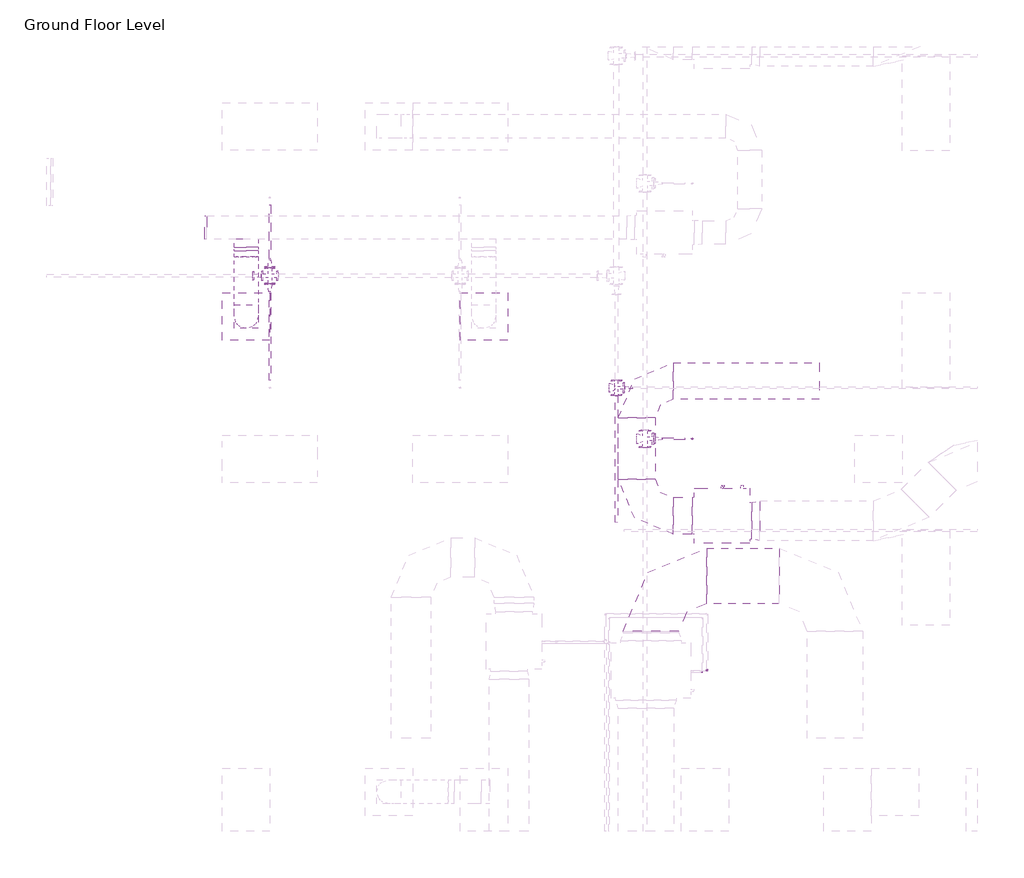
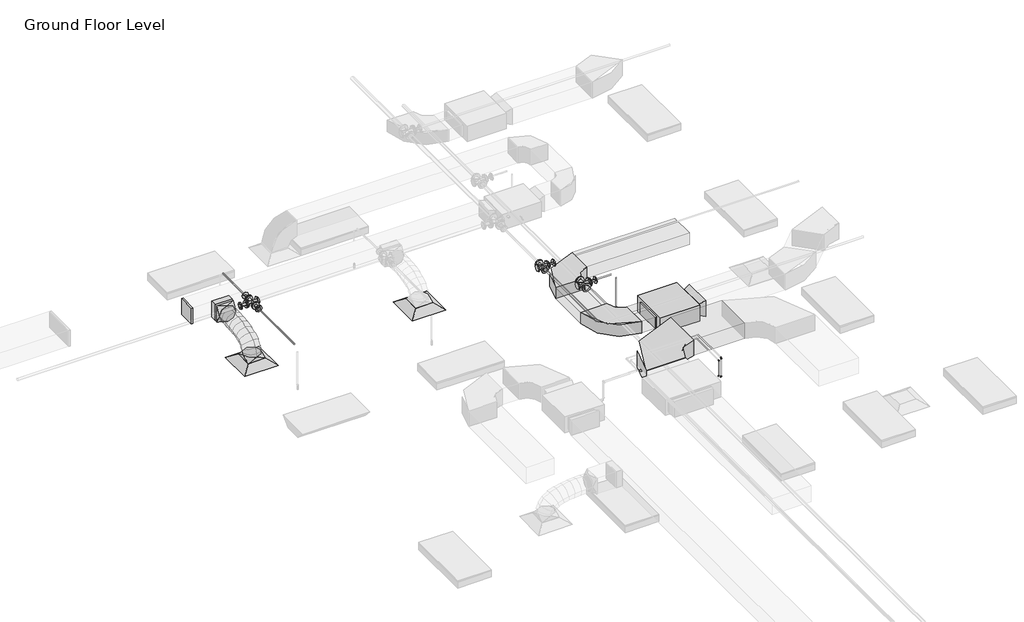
# One storey, part 34 of 68: 12 pipe fittings, 8 duct fittings, 7 pipe segments, 6 duct segments, 2 air terminals, 1 fire suppression terminal, 1 proxy.
"""IFC4 building model written with IfcOpenShell, lengths in millimetres."""

from ifc_helpers import new_model, si_unit, point, frame, frame_2d, origin, place, context, project, spatial, polyline, circle_curve, ellipse_curve, trimmed, segment, composite_curve, outline, extrude, transform, mapped, element, save
from ifc_brep_helpers import plane_surface, cylinder_surface, advanced_brep
from components import m_return_diffuser_600_x_600_face_300_x_300_connection_ff221211, fcu_daikin_iu_bad131e0, m_rectangular_elbow_radius_1_w_54c96895, m_rectangular_elbow_radius_1_w_8a62b27e, m_rectangular_endcap_standard_c319d4e7, m_rectangular_takeoff_standard_cb0ccb98, m_rectangular_transition_angle_45_degree_2b595dfe, m_rectangular_to_round_transition_angle_45_degree_641efff0, m_sprinkler_pendent_15_mm_pendent_06fcbd8e, m_cross_flanged_cs_class_150_standard_fc817054, m_elbow_generic_standard_a088f956, m_elbow_generic_standard_2a704253, m_reducer_flanged_cs_class_150_standard_ccf252ad, m_reducer_flanged_cs_class_150_standard_83138b42, m_reducer_flanged_cs_class_150_standard_564df86d, m_reducer_flanged_cs_class_150_standard_dc68ad9d, m_tee_round_base_flanged_cs_class_150_standard_7e5987a1, m_tee_round_base_flanged_cs_class_150_standard_ab36f383

model = new_model("IFC4")

# Units and contexts
model_context = context("Model", 3, world=origin())
ifc_project = project(units=[si_unit("LENGTHUNIT", "METRE", prefix="MILLI")], contexts=[model_context])

# Site, building, storey
site = spatial("IfcSite", under=ifc_project)
building = spatial("IfcBuilding", under=site)
storey = spatial("IfcBuildingStorey", under=building, Name="Ground Floor Level", Elevation=900.0)

# Air terminals
placement = place(None, origin())
m_return_diffuser_600_x_600_face_300_x_300_connection_shape = m_return_diffuser_600_x_600_face_300_x_300_connection_ff221211(model_context)
element("IfcAirTerminal", 1, ObjectType="M_Supply Diffuser : 600 x 600 Face 300 x 300 Connection", at=placement, inside=storey, context=model_context, shape_type="MappedRepresentation", body=[
    mapped(m_return_diffuser_600_x_600_face_300_x_300_connection_shape, transform((962.7672395, -3464.7846466, 3650.0), x_axis=(1.0, 0.0, 0.0), y_axis=(0.0, 1.0, 0.0), z_axis=(0.0, 0.0, 1.0))),
])
element("IfcAirTerminal", 2, ObjectType="M_Supply Diffuser : 600 x 600 Face 300 x 300 Connection", at=placement, inside=storey, context=model_context, shape_type="MappedRepresentation", body=[
    mapped(m_return_diffuser_600_x_600_face_300_x_300_connection_shape, transform((3962.7672395, -3464.7846466, 3650.0), x_axis=(1.0, 0.0, 0.0), y_axis=(0.0, 1.0, 0.0), z_axis=(0.0, 0.0, 1.0))),
])

# Proxy
fcu_daikin_iu_shape = fcu_daikin_iu_bad131e0(model_context)
element("IfcBuildingElementProxy", 3, Name="FCU-DAIKIN IU : 4.5kW, 230V/50Hz/1Ph", ObjectType="FCU-DAIKIN IU : 4.5kW, 230V/50Hz/1Ph", at=placement, inside=storey, context=model_context, shape_type="MappedRepresentation", body=[
    mapped(fcu_daikin_iu_shape, transform((6968.8139492, -5980.3220473, 3934.0932729), x_axis=(0.0, 1.0, 0.0), y_axis=(-1.0, 0.0, 0.0), z_axis=(0.0, 0.0, 1.0))),
])

# Duct fittings
m_rectangular_elbow_radius_1_w_shape = m_rectangular_elbow_radius_1_w_54c96895(model_context)
element("IfcDuctFitting", 4, ObjectType="M_Rectangular Elbow - Radius : 1 W", at=placement, inside=storey, context=model_context, shape_type="MappedRepresentation", body=[
    mapped(m_rectangular_elbow_radius_1_w_shape, transform((5893.4139492, -5980.3220473, 4075.2932729), x_axis=(0.0, -1.0, 0.0), y_axis=(1.0, 0.0, 0.0), z_axis=(0.0, 0.0, 1.0))),
])
element("IfcDuctFitting", 5, ObjectType="M_Rectangular Elbow - Radius : 1 W", at=placement, inside=storey, context=model_context, shape_type="MappedRepresentation", body=[
    mapped(m_rectangular_elbow_radius_1_w_shape, transform((5893.4139492, -4280.3216051, 4075.2932729), x_axis=(-1.0, 0.0, 0.0), y_axis=(0.0, -1.0, 0.0), z_axis=(0.0, 0.0, 1.0))),
])
m_rectangular_elbow_radius_1_w_2_shape = m_rectangular_elbow_radius_1_w_8a62b27e(model_context)
element("IfcDuctFitting", 6, ObjectType="M_Rectangular Elbow - Radius : 1 W", at=placement, inside=storey, context=model_context, shape_type="MappedRepresentation", body=[
    mapped(m_rectangular_elbow_radius_1_w_2_shape, transform((6073.4139492, -6738.5358641, 4075.2875), x_axis=(-1.0, 0.0, 0.0), y_axis=(0.0, -1.0, 0.0), z_axis=(0.0, 0.0, 1.0))),
])
m_rectangular_endcap_standard_shape = m_rectangular_endcap_standard_c319d4e7(model_context)
element("IfcDuctFitting", 7, ObjectType="M_Rectangular Endcap : Standard", at=placement, inside=storey, context=model_context, shape_type="MappedRepresentation", body=[
    mapped(m_rectangular_endcap_standard_shape, transform((468.0139492, -2341.7438478, 4099.9874667), x_axis=(-0.9999999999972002, 0.0, -2.3663212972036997e-06), y_axis=(0.0, -1.0, 0.0), z_axis=(-2.3663212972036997e-06, 0.0, 0.9999999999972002))),
])
m_rectangular_takeoff_standard_shape = m_rectangular_takeoff_standard_cb0ccb98(model_context)
element("IfcDuctFitting", 8, ObjectType="M_Rectangular Takeoff : Standard", at=placement, inside=storey, context=model_context, shape_type="MappedRepresentation", body=[
    mapped(m_rectangular_takeoff_standard_shape, transform((962.7672395, -2491.7438478, 4099.9886375), x_axis=(0.0, -1.0, 0.0), y_axis=(-1.0, 0.0, 0.0), z_axis=(0.0, 0.0, -1.0))),
])
m_rectangular_transition_angle_45_degree_shape = m_rectangular_transition_angle_45_degree_2b595dfe(model_context)
element("IfcDuctFitting", 9, ObjectType="M_Rectangular Transition - Angle : 45 Degree", at=placement, inside=storey, context=model_context, shape_type="MappedRepresentation", body=[
    mapped(m_rectangular_transition_angle_45_degree_shape, transform((7344.2139492, -6043.8220473, 4100.0057729), x_axis=(1.0, 0.0, 0.0), y_axis=(0.0, 1.0, 0.0), z_axis=(0.0, 0.0, 1.0))),
])
m_rectangular_to_round_transition_angle_45_degree_shape = m_rectangular_to_round_transition_angle_45_degree_641efff0(model_context)
element("IfcDuctFitting", 10, ObjectType="M_Rectangular to Round Transition - Angle : 45 Degree", at=placement, inside=storey, context=model_context, shape_type="MappedRepresentation", body=[
    mapped(m_rectangular_to_round_transition_angle_45_degree_shape, transform((962.7672395, -3464.7846466, 3751.6), x_axis=(0.0, 0.0, 1.0), y_axis=(-1.0, 0.0, 0.0), z_axis=(0.0, -1.0, 0.0))),
])
element("IfcDuctFitting", 11, ObjectType="M_Rectangular to Round Transition - Angle : 45 Degree", at=placement, inside=storey, context=model_context, shape_type="MappedRepresentation", body=[
    mapped(m_rectangular_to_round_transition_angle_45_degree_shape, transform((962.7672395, -2637.4373528, 4099.9886375), x_axis=(0.0, -1.0, 0.0), y_axis=(1.0, 0.0, 0.0), z_axis=(0.0, 0.0, 1.0))),
])

# Duct segments
element("IfcDuctSegment", 12, ObjectType="Flex - Round", at=placement, inside=storey, context=model_context, shape_type="AdvancedBrep", body=[
    advanced_brep(
    [(1112.7672395, -3464.7846466, 3826.6), (962.7672395, -3614.7846466, 3826.6), (812.7672395, -3464.7846466, 3826.6), (962.7672395, -3314.7846466, 3826.6), (1112.7672395, -3464.7846466, 3857.9381884), (962.7672395, -3614.7846466, 3883.5819935), (812.7672395, -3464.7846466, 3857.9381884), (962.7672395, -3314.7846466, 3832.2943832), (1112.7672395, -3447.768399, 3906.25078), (962.7672395, -3581.5056623, 3978.0678058), (812.7672395, -3447.768399, 3906.25078), (962.7672395, -3314.0311357, 3834.4337542), (1112.7672395, -3400.5836609, 3968.7107931), (962.7672395, -3504.7876153, 4079.6220458), (812.7672395, -3400.5836609, 3968.7107931), (962.7672395, -3296.3797065, 3857.7995403), (1112.7672395, -3329.0264393, 4016.0681252), (962.7672395, -3397.9574302, 4150.3234013), (812.7672395, -3329.0264393, 4016.0681252), (962.7672395, -3260.0954484, 3881.8128492), (1112.7672395, -3238.8927413, 4050.4108625), (962.7672395, -3282.4501545, 4194.3339779), (812.7672395, -3238.8927413, 4050.4108625), (962.7672395, -3195.3353281, 3906.4877471), (1112.7672395, -3135.978574, 4073.8270909), (962.7672395, -3162.5363225, 4221.6181678), (812.7672395, -3135.978574, 4073.8270909), (962.7672395, -3109.4208256, 3926.0360141), (1112.7672395, -3026.0799445, 4088.4048966), (962.7672395, -3041.2280867, 4237.7094321), (812.7672395, -3026.0799445, 4088.4048966), (962.7672395, -3010.9318022, 3939.1003612), (1112.7672395, -2914.9928597, 4096.2323656), (962.7672395, -2922.4960405, 4246.0755838), (812.7672395, -2914.9928597, 4096.2323656), (962.7672395, -2907.4896789, 3946.3891473), (1112.7672395, -2808.5133268, 4099.3975838), (962.7672395, -2811.2035581, 4249.3838721), (812.7672395, -2808.5133268, 4099.3975838), (962.7672395, -2805.8230955, 3949.4112955), (1112.7672395, -2712.4373528, 4099.9886375), (962.7672395, -2711.5145792, 3949.9914759), (812.7672395, -2712.4373528, 4099.9886375), (962.7672395, -2713.3601263, 4249.9857991)],
    [
        (0, 1, circle_curve(frame((962.7672395, -3464.7846466, 3826.6), z_axis=(0.0, 0.0, -1.0), x_axis=(1.0, 0.0, 0.0)), 150.0)),
        (1, 2, circle_curve(frame((962.7672395, -3464.7846466, 3826.6), z_axis=(0.0, 0.0, -1.0), x_axis=(1.0, 0.0, 0.0)), 150.0)),
        (2, 3, circle_curve(frame((962.7672395, -3464.7846466, 3826.6), z_axis=(0.0, 0.0, -1.0), x_axis=(1.0, 0.0, 0.0)), 150.0)),
        (3, 0, circle_curve(frame((962.7672395, -3464.7846466, 3826.6), z_axis=(0.0, 0.0, -1.0), x_axis=(1.0, 0.0, 0.0)), 150.0)),
        (0, 4),
        (4, 5, ellipse_curve(frame((962.7672395, -3464.7846466, 3857.9381884), z_axis=(0.0, -0.1685138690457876, -0.985699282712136), x_axis=(0.0, 0.9856992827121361, -0.16851386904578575)), 152.1762292, 150.0)),
        (5, 1),
        (5, 6, ellipse_curve(frame((962.7672395, -3464.7846466, 3857.9381884), z_axis=(0.0, -0.1685138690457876, -0.985699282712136), x_axis=(0.0, 0.9856992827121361, -0.16851386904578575)), 152.1762292, 150.0)),
        (6, 2),
        (6, 7, ellipse_curve(frame((962.7672395, -3464.7846466, 3857.9381884), z_axis=(0.0, -0.1685138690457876, -0.985699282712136), x_axis=(0.0, 0.9856992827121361, -0.16851386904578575)), 152.1762292, 150.0)),
        (7, 3),
        (7, 4, ellipse_curve(frame((962.7672395, -3464.7846466, 3857.9381884), z_axis=(0.0, -0.1685138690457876, -0.985699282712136), x_axis=(0.0, 0.9856992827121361, -0.16851386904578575)), 152.1762292, 150.0)),
        (4, 8),
        (8, 9, ellipse_curve(frame((962.7672395, -3447.768399, 3906.25078), z_axis=(0.0, -0.47310190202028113, -0.8810077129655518), x_axis=(0.0, 0.8810077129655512, -0.47310190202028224)), 151.800332, 150.0)),
        (9, 5),
        (9, 10, ellipse_curve(frame((962.7672395, -3447.768399, 3906.25078), z_axis=(0.0, -0.47310190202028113, -0.8810077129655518), x_axis=(0.0, 0.8810077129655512, -0.47310190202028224)), 151.800332, 150.0)),
        (10, 6),
        (10, 11, ellipse_curve(frame((962.7672395, -3447.768399, 3906.25078), z_axis=(0.0, -0.47310190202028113, -0.8810077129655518), x_axis=(0.0, 0.8810077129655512, -0.47310190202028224)), 151.800332, 150.0)),
        (11, 7),
        (11, 8, ellipse_curve(frame((962.7672395, -3447.768399, 3906.25078), z_axis=(0.0, -0.47310190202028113, -0.8810077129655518), x_axis=(0.0, 0.8810077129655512, -0.47310190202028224)), 151.800332, 150.0)),
        (8, 12),
        (12, 13, ellipse_curve(frame((962.7672395, -3400.5836609, 3968.7107931), z_axis=(0.0, -0.7288002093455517, -0.6847264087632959), x_axis=(0.0, 0.6847264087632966, -0.7288002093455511)), 152.1833437, 150.0)),
        (13, 9),
        (13, 14, ellipse_curve(frame((962.7672395, -3400.5836609, 3968.7107931), z_axis=(0.0, -0.7288002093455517, -0.6847264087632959), x_axis=(0.0, 0.6847264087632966, -0.7288002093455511)), 152.1833437, 150.0)),
        (14, 10),
        (14, 15, ellipse_curve(frame((962.7672395, -3400.5836609, 3968.7107931), z_axis=(0.0, -0.7288002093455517, -0.6847264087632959), x_axis=(0.0, 0.6847264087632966, -0.7288002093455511)), 152.1833437, 150.0)),
        (15, 11),
        (15, 12, ellipse_curve(frame((962.7672395, -3400.5836609, 3968.7107931), z_axis=(0.0, -0.7288002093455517, -0.6847264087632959), x_axis=(0.0, 0.6847264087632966, -0.7288002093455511)), 152.1833437, 150.0)),
        (12, 16),
        (16, 17, ellipse_curve(frame((962.7672395, -3329.0264393, 4016.0681252), z_axis=(0.0, -0.8895963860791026, -0.45674749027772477), x_axis=(0.0, 0.456747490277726, -0.889596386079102)), 150.9170655, 150.0)),
        (17, 13),
        (17, 18, ellipse_curve(frame((962.7672395, -3329.0264393, 4016.0681252), z_axis=(0.0, -0.8895963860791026, -0.45674749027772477), x_axis=(0.0, 0.456747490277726, -0.889596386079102)), 150.9170655, 150.0)),
        (18, 14),
        (18, 19, ellipse_curve(frame((962.7672395, -3329.0264393, 4016.0681252), z_axis=(0.0, -0.8895963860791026, -0.45674749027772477), x_axis=(0.0, 0.456747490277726, -0.889596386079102)), 150.9170655, 150.0)),
        (19, 15),
        (19, 16, ellipse_curve(frame((962.7672395, -3329.0264393, 4016.0681252), z_axis=(0.0, -0.8895963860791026, -0.45674749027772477), x_axis=(0.0, 0.456747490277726, -0.889596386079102)), 150.9170655, 150.0)),
        (16, 20),
        (20, 21, ellipse_curve(frame((962.7672395, -3238.8927413, 4050.4108625), z_axis=(0.0, -0.9571270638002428, -0.28966840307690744), x_axis=(0.0, 0.2896684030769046, -0.9571270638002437)), 150.3699152, 150.0)),
        (21, 17),
        (21, 22, ellipse_curve(frame((962.7672395, -3238.8927413, 4050.4108625), z_axis=(0.0, -0.9571270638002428, -0.28966840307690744), x_axis=(0.0, 0.2896684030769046, -0.9571270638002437)), 150.3699152, 150.0)),
        (22, 18),
        (22, 23, ellipse_curve(frame((962.7672395, -3238.8927413, 4050.4108625), z_axis=(0.0, -0.9571270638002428, -0.28966840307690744), x_axis=(0.0, 0.2896684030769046, -0.9571270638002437)), 150.3699152, 150.0)),
        (23, 19),
        (23, 20, ellipse_curve(frame((962.7672395, -3238.8927413, 4050.4108625), z_axis=(0.0, -0.9571270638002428, -0.28966840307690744), x_axis=(0.0, 0.2896684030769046, -0.9571270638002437)), 150.3699152, 150.0)),
        (20, 24),
        (24, 25, ellipse_curve(frame((962.7672395, -3135.978574, 4073.8270909), z_axis=(0.0, -0.9842351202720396, -0.17686499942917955), x_axis=(0.0, 0.176864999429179, -0.9842351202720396)), 150.1583045, 150.0)),
        (25, 21),
        (25, 26, ellipse_curve(frame((962.7672395, -3135.978574, 4073.8270909), z_axis=(0.0, -0.9842351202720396, -0.17686499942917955), x_axis=(0.0, 0.176864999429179, -0.9842351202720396)), 150.1583045, 150.0)),
        (26, 22),
        (26, 27, ellipse_curve(frame((962.7672395, -3135.978574, 4073.8270909), z_axis=(0.0, -0.9842351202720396, -0.17686499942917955), x_axis=(0.0, 0.176864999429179, -0.9842351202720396)), 150.1583045, 150.0)),
        (27, 23),
        (27, 24, ellipse_curve(frame((962.7672395, -3135.978574, 4073.8270909), z_axis=(0.0, -0.9842351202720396, -0.17686499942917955), x_axis=(0.0, 0.176864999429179, -0.9842351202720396)), 150.1583045, 150.0)),
        (24, 28),
        (28, 29, ellipse_curve(frame((962.7672395, -3026.0799445, 4088.4048966), z_axis=(0.0, -0.9948925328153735, -0.10093982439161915), x_axis=(0.0, 0.10093982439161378, -0.9948925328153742)), 150.0710183, 150.0)),
        (29, 25),
        (29, 30, ellipse_curve(frame((962.7672395, -3026.0799445, 4088.4048966), z_axis=(0.0, -0.9948925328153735, -0.10093982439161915), x_axis=(0.0, 0.10093982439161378, -0.9948925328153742)), 150.0710183, 150.0)),
        (30, 26),
        (30, 31, ellipse_curve(frame((962.7672395, -3026.0799445, 4088.4048966), z_axis=(0.0, -0.9948925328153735, -0.10093982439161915), x_axis=(0.0, 0.10093982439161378, -0.9948925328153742)), 150.0710183, 150.0)),
        (31, 27),
        (31, 28, ellipse_curve(frame((962.7672395, -3026.0799445, 4088.4048966), z_axis=(0.0, -0.9948925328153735, -0.10093982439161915), x_axis=(0.0, 0.10093982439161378, -0.9948925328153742)), 150.0710183, 150.0)),
        (28, 32),
        (32, 33, ellipse_curve(frame((962.7672395, -2914.9928597, 4096.2323656), z_axis=(0.0, -0.998748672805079, -0.050010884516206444), x_axis=(0.0, 0.05001088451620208, -0.9987486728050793)), 150.030956, 150.0)),
        (33, 29),
        (33, 34, ellipse_curve(frame((962.7672395, -2914.9928597, 4096.2323656), z_axis=(0.0, -0.998748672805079, -0.050010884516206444), x_axis=(0.0, 0.05001088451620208, -0.9987486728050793)), 150.030956, 150.0)),
        (34, 30),
        (34, 35, ellipse_curve(frame((962.7672395, -2914.9928597, 4096.2323656), z_axis=(0.0, -0.998748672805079, -0.050010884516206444), x_axis=(0.0, 0.05001088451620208, -0.9987486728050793)), 150.030956, 150.0)),
        (35, 31),
        (35, 32, ellipse_curve(frame((962.7672395, -2914.9928597, 4096.2323656), z_axis=(0.0, -0.998748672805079, -0.050010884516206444), x_axis=(0.0, 0.05001088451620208, -0.9987486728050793)), 150.030956, 150.0)),
        (32, 36),
        (36, 37, ellipse_curve(frame((962.7672395, -2808.5133268, 4099.3975838), z_axis=(0.0, -0.9998391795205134, -0.017933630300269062), x_axis=(0.0, 0.017933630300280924, -0.9998391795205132)), 150.0104131, 150.0)),
        (37, 33),
        (37, 38, ellipse_curve(frame((962.7672395, -2808.5133268, 4099.3975838), z_axis=(0.0, -0.9998391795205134, -0.017933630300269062), x_axis=(0.0, 0.017933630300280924, -0.9998391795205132)), 150.0104131, 150.0)),
        (38, 34),
        (38, 39, ellipse_curve(frame((962.7672395, -2808.5133268, 4099.3975838), z_axis=(0.0, -0.9998391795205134, -0.017933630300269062), x_axis=(0.0, 0.017933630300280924, -0.9998391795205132)), 150.0104131, 150.0)),
        (39, 35),
        (39, 36, ellipse_curve(frame((962.7672395, -2808.5133268, 4099.3975838), z_axis=(0.0, -0.9998391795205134, -0.017933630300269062), x_axis=(0.0, 0.017933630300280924, -0.9998391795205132)), 150.0104131, 150.0)),
        (40, 41, circle_curve(frame((962.7672395, -2712.4373528, 4099.9886375), z_axis=(0.0, 0.9999810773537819, 0.006151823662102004), x_axis=(1.0, 0.0, 0.0)), 150.0)),
        (41, 42, circle_curve(frame((962.7672395, -2712.4373528, 4099.9886375), z_axis=(0.0, 0.9999810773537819, 0.006151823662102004), x_axis=(1.0, 0.0, 0.0)), 150.0)),
        (42, 43, circle_curve(frame((962.7672395, -2712.4373528, 4099.9886375), z_axis=(0.0, 0.9999810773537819, 0.006151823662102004), x_axis=(1.0, 0.0, 0.0)), 150.0)),
        (43, 40, circle_curve(frame((962.7672395, -2712.4373528, 4099.9886375), z_axis=(0.0, 0.9999810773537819, 0.006151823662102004), x_axis=(1.0, 0.0, 0.0)), 150.0)),
        (36, 40),
        (43, 37),
        (42, 38),
        (41, 39),
    ],
    [
        plane_surface(frame((962.7672395, -3614.7846466, 3826.6), z_axis=(0.0, 0.0, -1.0), x_axis=(1.0, 0.0, 0.0))),
        cylinder_surface(frame((962.7672395, -3464.7846466, 3826.6), z_axis=(0.0, 0.0, -1.0), x_axis=(1.0, 0.0, 0.0)), 150.0),
        cylinder_surface(frame((962.7672395, -3464.7846466, 3857.9381884), z_axis=(0.0, -0.3322079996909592, -0.9432061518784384), x_axis=(1.0, 0.0, 0.0)), 150.0),
        cylinder_surface(frame((962.7672395, -3447.768399, 3906.25078), z_axis=(0.0, -0.6027739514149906, -0.79791200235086), x_axis=(1.0, 0.0, 0.0)), 150.0),
        cylinder_surface(frame((962.7672395, -3400.5836609, 3968.7107931), z_axis=(0.0, -0.8339145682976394, -0.5518935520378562), x_axis=(1.0, 0.0, 0.0)), 150.0),
        cylinder_surface(frame((962.7672395, -3329.0264393, 4016.0681252), z_axis=(0.0, -0.9344667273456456, -0.35605046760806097), x_axis=(1.0, 0.0, 0.0)), 150.0),
        cylinder_surface(frame((962.7672395, -3238.8927413, 4050.4108625), z_axis=(0.0, -0.9750782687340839, -0.22186114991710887), x_axis=(1.0, 0.0, 0.0)), 150.0),
        cylinder_surface(frame((962.7672395, -3135.978574, 4073.8270909), z_axis=(0.0, -0.9913167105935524, -0.13149592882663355), x_axis=(1.0, 0.0, 0.0)), 150.0),
        cylinder_surface(frame((962.7672395, -3026.0799445, 4088.4048966), z_axis=(0.0, -0.9975267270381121, -0.07028818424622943), x_axis=(1.0, 0.0, 0.0)), 150.0),
        cylinder_surface(frame((962.7672395, -2914.9928597, 4096.2323656), z_axis=(0.0, -0.9995584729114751, -0.029712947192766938), x_axis=(1.0, 0.0, 0.0)), 150.0),
        plane_surface(frame((962.7672395, -2713.3601263, 4249.9857991), z_axis=(0.0, 0.999981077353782, 0.006151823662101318), x_axis=(1.0, 0.0, 0.0))),
        cylinder_surface(frame((962.7672395, -2808.5133268, 4099.3975838), z_axis=(0.0, -0.9999810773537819, -0.006151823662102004), x_axis=(1.0, 0.0, 0.0)), 150.0),
    ],
    [
        (0, [[1, 2, 3, 4]]),
        (1, [[-1, 5, 6, 7]]),
        (1, [[-2, -7, 8, 9]]),
        (1, [[-3, -9, 10, 11]]),
        (1, [[-4, -11, 12, -5]]),
        (2, [[-6, 13, 14, 15]]),
        (2, [[-8, -15, 16, 17]]),
        (2, [[-10, -17, 18, 19]]),
        (2, [[-12, -19, 20, -13]]),
        (3, [[-14, 21, 22, 23]]),
        (3, [[-16, -23, 24, 25]]),
        (3, [[-18, -25, 26, 27]]),
        (3, [[-20, -27, 28, -21]]),
        (4, [[-22, 29, 30, 31]]),
        (4, [[-24, -31, 32, 33]]),
        (4, [[-26, -33, 34, 35]]),
        (4, [[-28, -35, 36, -29]]),
        (5, [[-30, 37, 38, 39]]),
        (5, [[-32, -39, 40, 41]]),
        (5, [[-34, -41, 42, 43]]),
        (5, [[-36, -43, 44, -37]]),
        (6, [[-38, 45, 46, 47]]),
        (6, [[-40, -47, 48, 49]]),
        (6, [[-42, -49, 50, 51]]),
        (6, [[-44, -51, 52, -45]]),
        (7, [[-46, 53, 54, 55]]),
        (7, [[-48, -55, 56, 57]]),
        (7, [[-50, -57, 58, 59]]),
        (7, [[-52, -59, 60, -53]]),
        (8, [[-54, 61, 62, 63]]),
        (8, [[-56, -63, 64, 65]]),
        (8, [[-58, -65, 66, 67]]),
        (8, [[-60, -67, 68, -61]]),
        (9, [[-62, 69, 70, 71]]),
        (9, [[-64, -71, 72, 73]]),
        (9, [[-66, -73, 74, 75]]),
        (9, [[-68, -75, 76, -69]]),
        (10, [[77, 78, 79, 80]]),
        (11, [[-70, 81, -80, 82]]),
        (11, [[-72, -82, -79, 83]]),
        (11, [[-74, -83, -78, 84]]),
        (11, [[-76, -84, -77, -81]]),
    ],
),
])
element("IfcDuctSegment", 13, ObjectType="Radius Elbows / Taps", at=placement, inside=storey, context=model_context, shape_type="SweptSolid", body=[
    extrude(outline(polyline([(6593.4139492, -5749.3845473), (6593.4139492, -6211.2595473), (6355.2889492, -6211.2595473), (6355.2889492, -5749.3845473), (6593.4139492, -5749.3845473)])), frame((0.0, 0.0, 3968.1432729), z_axis=(0.0, 0.0, 1.0), x_axis=(1.0, 0.0, 0.0)), (0.0, 0.0, 1.0), 214.3),
])
element("IfcDuctSegment", 14, ObjectType="Radius Elbows / Taps", at=placement, inside=storey, context=model_context, shape_type="SweptSolid", body=[
    extrude(outline(polyline([(6124.3514492, -5518.4470473), (5662.4764492, -5518.4470473), (5662.4764492, -4742.1966051), (6124.3514492, -4742.1966051), (6124.3514492, -5518.4470473)])), frame((0.0, 0.0, 3968.1432729), z_axis=(0.0, 0.0, 1.0), x_axis=(1.0, 0.0, 0.0)), (0.0, 0.0, 1.0), 214.3),
])
element("IfcDuctSegment", 15, ObjectType="Radius Elbows / Taps", at=placement, inside=storey, context=model_context, shape_type="SweptSolid", body=[
    extrude(outline(polyline([(6355.2889492, -4511.2591051), (6355.2889492, -4049.3841051), (8193.4139492, -4049.3841051), (8193.4139492, -4511.2591051), (6355.2889492, -4511.2591051)])), frame((0.0, 0.0, 3968.1432729), z_axis=(0.0, 0.0, 1.0), x_axis=(1.0, 0.0, 0.0)), (0.0, 0.0, 1.0), 214.3),
])
element("IfcDuctSegment", 16, ObjectType="Radius Elbows / Taps", at=placement, inside=storey, context=model_context, shape_type="SweptSolid", body=[
    extrude(outline(polyline([(6773.4139492, -7088.5358641), (6773.4139492, -6388.5358641), (7693.4139492, -6388.5358641), (7693.4139492, -7088.5358641), (6773.4139492, -7088.5358641)])), frame((0.0, 0.0, 3925.2875), z_axis=(0.0, 0.0, 1.0), x_axis=(1.0, 0.0, 0.0)), (0.0, 0.0, 1.0), 300.0),
])
element("IfcDuctSegment", 17, ObjectType="Radius Elbows / Taps", at=placement, inside=storey, context=model_context, shape_type="SweptSolid", body=[
    extrude(outline(polyline([(812.7672395, -2593.3438478), (1112.7672395, -2593.3438478), (1112.7672395, -2637.4373528), (812.7672395, -2637.4373528), (812.7672395, -2593.3438478)])), frame((0.0, 0.0, 3949.9886375), z_axis=(0.0, 0.0, 1.0), x_axis=(1.0, 0.0, 0.0)), (0.0, 0.0, 1.0), 300.0),
])

# Fire suppression terminal
m_sprinkler_pendent_15_mm_pendent_shape = m_sprinkler_pendent_15_mm_pendent_06fcbd8e(model_context)
element("IfcFireSuppressionTerminal", 18, ObjectType="M_Sprinkler - Pendent : 15 mm Pendent", at=placement, inside=storey, context=model_context, shape_type="MappedRepresentation", body=[
    mapped(m_sprinkler_pendent_15_mm_pendent_shape, transform((6592.5481019, -5008.8364761, 3650.0), x_axis=(1.0, 0.0, 0.0), y_axis=(0.0, 1.0, 0.0), z_axis=(0.0, 0.0, 1.0))),
])

# Pipe fittings
m_cross_flanged_cs_class_150_standard_shape = m_cross_flanged_cs_class_150_standard_fc817054(model_context)
element("IfcPipeFitting", 19, ObjectType="M_Cross - Flanged - CS - Class 150 : Standard", at=placement, inside=storey, context=model_context, shape_type="MappedRepresentation", body=[
    mapped(m_cross_flanged_cs_class_150_standard_shape, transform((1262.7672395, -2950.3491993, 4360.0), x_axis=(1.0, 0.0, 0.0), y_axis=(0.0, -1.0, 0.0), z_axis=(0.0, 0.0, -1.0))),
])
m_elbow_generic_standard_shape = m_elbow_generic_standard_a088f956(model_context)
element("IfcPipeFitting", 20, ObjectType="M_Elbow - Generic : Standard", at=placement, inside=storey, context=model_context, shape_type="MappedRepresentation", body=[
    mapped(m_elbow_generic_standard_shape, transform((6782.8951827, -7933.9358641, 4390.0), x_axis=(0.0, -1.0, 0.0), y_axis=(0.0, 0.0, -1.0), z_axis=(1.0, 0.0, 0.0))),
])
element("IfcPipeFitting", 21, ObjectType="M_Elbow - Generic : Standard", at=placement, inside=storey, context=model_context, shape_type="MappedRepresentation", body=[
    mapped(m_elbow_generic_standard_shape, transform((6782.8951827, -7933.9358641, 4034.0875), x_axis=(0.0, 0.0, -1.0), y_axis=(-1.0, 0.0, 0.0), z_axis=(0.0, 1.0, 0.0))),
])
m_elbow_generic_standard_2_shape = m_elbow_generic_standard_2a704253(model_context)
element("IfcPipeFitting", 22, ObjectType="M_Elbow - Generic : Standard", at=placement, inside=storey, context=model_context, shape_type="MappedRepresentation", body=[
    mapped(m_elbow_generic_standard_2_shape, transform((6723.9904113, -7958.9358641, 4377.5), x_axis=(0.0, -1.0, 0.0), y_axis=(0.0, 0.0, -1.0), z_axis=(1.0, 0.0, 0.0))),
])
element("IfcPipeFitting", 23, ObjectType="M_Elbow - Generic : Standard", at=placement, inside=storey, context=model_context, shape_type="MappedRepresentation", body=[
    mapped(m_elbow_generic_standard_2_shape, transform((6723.9904113, -7958.9358641, 4084.8875), x_axis=(0.0, 0.0, -1.0), y_axis=(-1.0, 0.0, 0.0), z_axis=(0.0, 1.0, 0.0))),
])
m_reducer_flanged_cs_class_150_standard_shape = m_reducer_flanged_cs_class_150_standard_ccf252ad(model_context)
element("IfcPipeFitting", 24, ObjectType="M_Reducer - Flanged - CS - Class 150 : Standard", at=placement, inside=storey, context=model_context, shape_type="MappedRepresentation", body=[
    mapped(m_reducer_flanged_cs_class_150_standard_shape, transform((5736.5780918, -4364.7846466, 4360.0), x_axis=(1.0, 0.0, 0.0), y_axis=(0.0, 0.0, 1.0), z_axis=(0.0, -1.0, 0.0))),
])
m_reducer_flanged_cs_class_150_standard_2_shape = m_reducer_flanged_cs_class_150_standard_83138b42(model_context)
element("IfcPipeFitting", 25, ObjectType="M_Reducer - Flanged - CS - Class 150 : Standard", at=placement, inside=storey, context=model_context, shape_type="MappedRepresentation", body=[
    mapped(m_reducer_flanged_cs_class_150_standard_2_shape, transform((6109.3164057, -5008.8364761, 4291.2754753), x_axis=(1.0, 0.0, 0.0), y_axis=(0.0, 0.0, -1.0), z_axis=(0.0, 1.0, 0.0))),
])
m_reducer_flanged_cs_class_150_standard_3_shape = m_reducer_flanged_cs_class_150_standard_564df86d(model_context)
element("IfcPipeFitting", 26, ObjectType="M_Reducer - Flanged - CS - Class 150 : Standard", at=placement, inside=storey, context=model_context, shape_type="MappedRepresentation", body=[
    mapped(m_reducer_flanged_cs_class_150_standard_3_shape, transform((1160.7672395, -2950.3491993, 4360.0), x_axis=(-1.0, 0.0, 0.0), y_axis=(0.0, -1.0, 0.0), z_axis=(0.0, 0.0, 1.0))),
])
m_reducer_flanged_cs_class_150_standard_4_shape = m_reducer_flanged_cs_class_150_standard_dc68ad9d(model_context)
element("IfcPipeFitting", 27, ObjectType="M_Reducer - Flanged - CS - Class 150 : Standard", at=placement, inside=storey, context=model_context, shape_type="MappedRepresentation", body=[
    mapped(m_reducer_flanged_cs_class_150_standard_4_shape, transform((1262.7672395, -2848.3491993, 4360.0), x_axis=(0.0, 1.0, 0.0), y_axis=(-1.0, 0.0, 0.0), z_axis=(0.0, 0.0, 1.0))),
])
element("IfcPipeFitting", 28, ObjectType="M_Reducer - Flanged - CS - Class 150 : Standard", at=placement, inside=storey, context=model_context, shape_type="MappedRepresentation", body=[
    mapped(m_reducer_flanged_cs_class_150_standard_4_shape, transform((1262.7672395, -3052.3491993, 4360.0), x_axis=(0.0, -1.0, 0.0), y_axis=(1.0, 0.0, 0.0), z_axis=(0.0, 0.0, 1.0))),
])
m_tee_round_base_flanged_cs_class_150_standard_shape = m_tee_round_base_flanged_cs_class_150_standard_7e5987a1(model_context)
element("IfcPipeFitting", 29, ObjectType="M_Tee Round Base - Flanged - CS - Class 150 : Standard", at=placement, inside=storey, context=model_context, shape_type="MappedRepresentation", body=[
    mapped(m_tee_round_base_flanged_cs_class_150_standard_shape, transform((5635.869498, -4364.7846466, 4360.0), x_axis=(0.0, 1.0, 0.0), y_axis=(-1.0, 0.0, 0.0), z_axis=(0.0, 0.0, 1.0))),
])
m_tee_round_base_flanged_cs_class_150_standard_2_shape = m_tee_round_base_flanged_cs_class_150_standard_ab36f383(model_context)
element("IfcPipeFitting", 30, ObjectType="M_Tee Round Base - Flanged - CS - Class 150 : Standard", at=placement, inside=storey, context=model_context, shape_type="MappedRepresentation", body=[
    mapped(m_tee_round_base_flanged_cs_class_150_standard_2_shape, transform((5997.057812, -5008.8364761, 4291.0943441), x_axis=(0.0, 1.0, 0.0), y_axis=(-1.0, 0.0, 0.0), z_axis=(0.0, 0.0, 1.0))),
])

# Pipe segments
element("IfcPipeSegment", 31, ObjectType="Copper", at=placement, inside=storey, context=model_context, shape_type="SweptSolid", body=[
    extrude(outline(composite_curve([segment(trimmed(circle_curve(frame_2d((6723.9904113, -7958.9358641)), 3.35), [point((6727.3404113, -7958.9358641))], [point((6723.9904113, -7962.2858641))], False, "CARTESIAN"), True, "CONTINUOUS"), segment(trimmed(circle_curve(frame_2d((6723.9904113, -7958.9358641)), 3.35), [point((6723.9904113, -7962.2858641))], [point((6720.6404113, -7958.9358641))], False, "CARTESIAN"), True, "CONTINUOUS"), segment(trimmed(circle_curve(frame_2d((6723.9904113, -7958.9358641)), 3.35), [point((6720.6404113, -7958.9358641))], [point((6723.9904113, -7955.5858641))], False, "CARTESIAN"), True, "CONTINUOUS"), segment(trimmed(circle_curve(frame_2d((6723.9904113, -7958.9358641)), 3.35), [point((6723.9904113, -7955.5858641))], [point((6727.3404113, -7958.9358641))], False, "CARTESIAN"), True, "CONTINUOUS")], self_intersect=False)), frame((0.0, 0.0, 4096.025), z_axis=(0.0, 0.0, 1.0), x_axis=(1.0, 0.0, 0.0)), (0.0, 0.0, 1.0), 270.3375),
])
element("IfcPipeSegment", 32, ObjectType="Copper", at=placement, inside=storey, context=model_context, shape_type="SweptSolid", body=[
    extrude(outline(composite_curve([segment(trimmed(circle_curve(frame_2d((6782.8951827, -7933.9358641)), 6.5), [point((6789.3951827, -7933.9358641))], [point((6782.8951827, -7940.4358641))], False, "CARTESIAN"), True, "CONTINUOUS"), segment(trimmed(circle_curve(frame_2d((6782.8951827, -7933.9358641)), 6.5), [point((6782.8951827, -7940.4358641))], [point((6776.3951827, -7933.9358641))], False, "CARTESIAN"), True, "CONTINUOUS"), segment(trimmed(circle_curve(frame_2d((6782.8951827, -7933.9358641)), 6.5), [point((6776.3951827, -7933.9358641))], [point((6782.8951827, -7927.4358641))], False, "CARTESIAN"), True, "CONTINUOUS"), segment(trimmed(circle_curve(frame_2d((6782.8951827, -7933.9358641)), 6.5), [point((6782.8951827, -7927.4358641))], [point((6789.3951827, -7933.9358641))], False, "CARTESIAN"), True, "CONTINUOUS")], self_intersect=False)), frame((0.0, 0.0, 4048.375), z_axis=(0.0, 0.0, 1.0), x_axis=(1.0, 0.0, 0.0)), (0.0, 0.0, 1.0), 327.3375),
])
element("IfcPipeSegment", 33, ObjectType="Steel flanged", at=placement, inside=storey, context=model_context, shape_type="SweptSolid", body=[
    extrude(outline(composite_curve([segment(trimmed(circle_curve(frame_2d((6592.5481019, -5008.8364761)), 10.668), [point((6581.8801019, -5008.8364761))], [point((6592.5481019, -4998.1684761))], False, "CARTESIAN"), True, "CONTINUOUS"), segment(trimmed(circle_curve(frame_2d((6592.5481019, -5008.8364761)), 10.668), [point((6592.5481019, -4998.1684761))], [point((6603.2161019, -5008.8364761))], False, "CARTESIAN"), True, "CONTINUOUS"), segment(trimmed(circle_curve(frame_2d((6592.5481019, -5008.8364761)), 10.668), [point((6603.2161019, -5008.8364761))], [point((6592.5481019, -5019.5044761))], False, "CARTESIAN"), True, "CONTINUOUS"), segment(trimmed(circle_curve(frame_2d((6592.5481019, -5008.8364761)), 10.668), [point((6592.5481019, -5019.5044761))], [point((6581.8801019, -5008.8364761))], False, "CARTESIAN"), True, "CONTINUOUS")], self_intersect=False)), frame((0.0, 0.0, 3650.0), z_axis=(0.0, 0.0, 1.0), x_axis=(1.0, 0.0, 0.0)), (0.0, 0.0, 1.0), 548.2668816),
])
element("IfcPipeSegment", 34, ObjectType="Steel flanged", at=placement, inside=storey, context=model_context, shape_type="SweptSolid", body=[
    extrude(outline(composite_curve([segment(trimmed(circle_curve(frame_2d((-5008.8364761, 4291.2754753)), 10.668), [point((-4998.1684761, 4291.2754753))], [point((-5008.8364761, 4280.6074753))], False, "CARTESIAN"), True, "CONTINUOUS"), segment(trimmed(circle_curve(frame_2d((-5008.8364761, 4291.2754753)), 10.668), [point((-5008.8364761, 4280.6074753))], [point((-5019.5044761, 4291.2754753))], False, "CARTESIAN"), True, "CONTINUOUS"), segment(trimmed(circle_curve(frame_2d((-5008.8364761, 4291.2754753)), 10.668), [point((-5019.5044761, 4291.2754753))], [point((-5008.8364761, 4301.9434753))], False, "CARTESIAN"), True, "CONTINUOUS"), segment(trimmed(circle_curve(frame_2d((-5008.8364761, 4291.2754753)), 10.668), [point((-5008.8364761, 4301.9434753))], [point((-4998.1684761, 4291.2754753))], False, "CARTESIAN"), True, "CONTINUOUS")], self_intersect=False)), frame((6223.3164057, 0.0, 0.0), z_axis=(1.0, 0.0, 0.0), x_axis=(0.0, 1.0, 0.0)), (0.0, 0.0, 1.0), 276.2231025),
])
element("IfcPipeSegment", 35, ObjectType="Steel flanged", at=placement, inside=storey, context=model_context, shape_type="SweptSolid", body=[
    extrude(outline(composite_curve([segment(trimmed(circle_curve(frame_2d((4360.0, 5635.869498)), 16.7005), [point((4360.0, 5619.168998))], [point((4343.2995, 5635.869498))], False, "CARTESIAN"), True, "CONTINUOUS"), segment(trimmed(circle_curve(frame_2d((4360.0, 5635.869498)), 16.7005), [point((4343.2995, 5635.869498))], [point((4360.0, 5652.569998))], False, "CARTESIAN"), True, "CONTINUOUS"), segment(trimmed(circle_curve(frame_2d((4360.0, 5635.869498)), 16.7005), [point((4360.0, 5652.569998))], [point((4376.7005, 5635.869498))], False, "CARTESIAN"), True, "CONTINUOUS"), segment(trimmed(circle_curve(frame_2d((4360.0, 5635.869498)), 16.7005), [point((4376.7005, 5635.869498))], [point((4360.0, 5619.168998))], False, "CARTESIAN"), True, "CONTINUOUS")], self_intersect=False)), frame((0.0, -6064.0760529, 0.0), z_axis=(0.0, 1.0, 0.0), x_axis=(0.0, 0.0, 1.0)), (0.0, 0.0, 1.0), 1598.5828125),
])
element("IfcPipeSegment", 36, ObjectType="Steel flanged", at=placement, inside=storey, context=model_context, shape_type="SweptSolid", body=[
    extrude(outline(composite_curve([segment(trimmed(circle_curve(frame_2d((4360.0, 1262.7672395)), 10.668), [point((4360.0, 1252.0992395))], [point((4349.332, 1262.7672395))], False, "CARTESIAN"), True, "CONTINUOUS"), segment(trimmed(circle_curve(frame_2d((4360.0, 1262.7672395)), 10.668), [point((4349.332, 1262.7672395))], [point((4360.0, 1273.4352395))], False, "CARTESIAN"), True, "CONTINUOUS"), segment(trimmed(circle_curve(frame_2d((4360.0, 1262.7672395)), 10.668), [point((4360.0, 1273.4352395))], [point((4370.668, 1262.7672395))], False, "CARTESIAN"), True, "CONTINUOUS"), segment(trimmed(circle_curve(frame_2d((4360.0, 1262.7672395)), 10.668), [point((4370.668, 1262.7672395))], [point((4360.0, 1252.0992395))], False, "CARTESIAN"), True, "CONTINUOUS")], self_intersect=False)), frame((0.0, -2734.3491993, 0.0), z_axis=(0.0, 1.0, 0.0), x_axis=(0.0, 0.0, 1.0)), (0.0, 0.0, 1.0), 676.5559589),
])
element("IfcPipeSegment", 37, ObjectType="Steel flanged", at=placement, inside=storey, context=model_context, shape_type="SweptSolid", body=[
    extrude(outline(composite_curve([segment(trimmed(circle_curve(frame_2d((4360.0, 1262.7672395)), 10.668), [point((4360.0, 1273.4352395))], [point((4370.668, 1262.7672395))], False, "CARTESIAN"), True, "CONTINUOUS"), segment(trimmed(circle_curve(frame_2d((4360.0, 1262.7672395)), 10.668), [point((4370.668, 1262.7672395))], [point((4360.0, 1252.0992395))], False, "CARTESIAN"), True, "CONTINUOUS"), segment(trimmed(circle_curve(frame_2d((4360.0, 1262.7672395)), 10.668), [point((4360.0, 1252.0992395))], [point((4349.332, 1262.7672395))], False, "CARTESIAN"), True, "CONTINUOUS"), segment(trimmed(circle_curve(frame_2d((4360.0, 1262.7672395)), 10.668), [point((4349.332, 1262.7672395))], [point((4360.0, 1273.4352395))], False, "CARTESIAN"), True, "CONTINUOUS")], self_intersect=False)), frame((0.0, -4271.7760529, 0.0), z_axis=(0.0, 1.0, 0.0), x_axis=(0.0, 0.0, 1.0)), (0.0, 0.0, 1.0), 1105.4268536),
])

save(model, "model.ifc")
